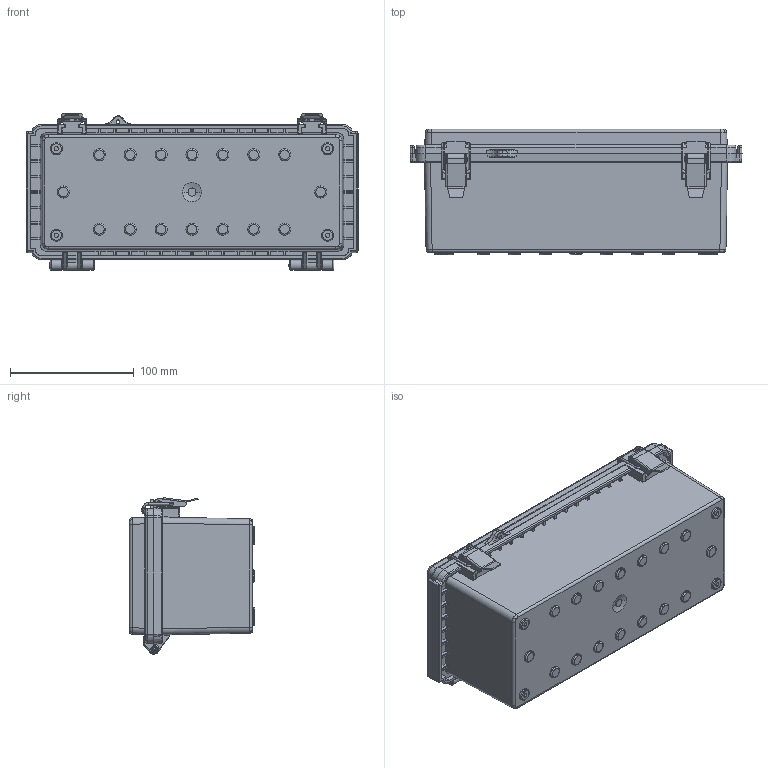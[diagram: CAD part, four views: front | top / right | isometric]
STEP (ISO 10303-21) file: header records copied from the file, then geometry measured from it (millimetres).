
FILE_DESCRIPTION (( 'STEP AP214' ), '1' );
FILE_NAME ('WQ-42.step', '2021-03-26T18:59:46', ( '' ), ( '' ), 'SwSTEP 2.0', 'SolidWorks 2020', '' );
FILE_SCHEMA (( 'AUTOMOTIVE_DESIGN' ));
Length unit declared in the file: inch
Products named in the file (12): WQ-PIN-01; WQ-42B_WQ-42B-02; WQ-42C_WQ-42C-03; SCREWS-025-002; BASE^WQ-50L-01; FRONT^WQ-50L-01_default; WQ-42S_WQ-42S-03; LOOP^WQ-50L-01; PIN^WQ-50L-01; WQ-42; WQ-50L-01_DEFAULT; SCREWS-025_default
Assembly tree (14 placements, depth 4):
  WQ-42
    WQ-42S_WQ-42S-03
      WQ-42B_WQ-42B-02
      WQ-42C_WQ-42C-03
      WQ-50L-01_DEFAULT  x2
        BASE^WQ-50L-01
        FRONT^WQ-50L-01_default
        PIN^WQ-50L-01
        LOOP^WQ-50L-01
      WQ-PIN-01  x2
    SCREWS-025-002
      SCREWS-025_default  x2
Bounding box: 268.67 x 101.69 x 126.56 mm (x, y, z)
Volume: 425724.2 mm3; surface area: 283730.8 mm2
Topology: 17 solids, 17 shells, 2801 faces, 7147 edges, 4469 vertices
Faces by surface type: plane 1122, cylinder 743, bspline 506, torus 228, cone 146, sphere 56
Entity records: 87496 total; most frequent: CARTESIAN_POINT 28275, ORIENTED_EDGE 13140, DIRECTION 10948, EDGE_CURVE 6570, VERTEX_POINT 4132, AXIS2_PLACEMENT_3D 3680, VECTOR 3588, LINE 3588
